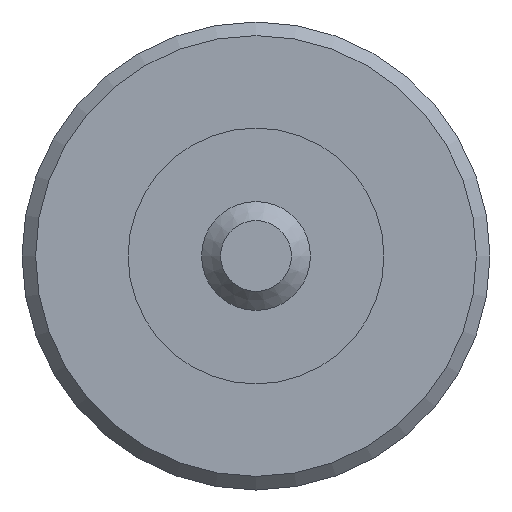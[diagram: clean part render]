
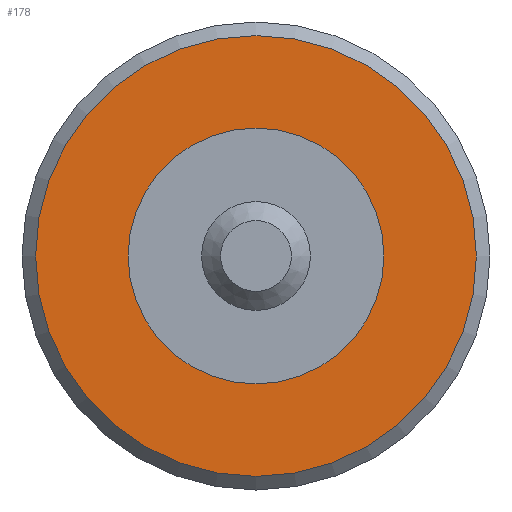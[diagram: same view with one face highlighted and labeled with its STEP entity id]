
A CAD part, left-side view. The second image highlights one B-rep face of the part: STEP entity #178.
In plain terms, the highlighted planar face has unit normal (-1, 0, 0).
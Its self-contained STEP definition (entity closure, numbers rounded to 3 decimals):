
#16=PLANE($,#205);
#31=FACE_BOUND($,#66,.T.);
#32=FACE_BOUND($,#67,.T.);
#66=EDGE_LOOP($,(#136));
#67=EDGE_LOOP($,(#137));
#85=CIRCLE($,#201,1.194);
#87=CIRCLE($,#206,2.057);
#99=VERTEX_POINT($,#298);
#101=VERTEX_POINT($,#305);
#113=EDGE_CURVE($,#99,#99,#85,.T.);
#115=EDGE_CURVE($,#101,#101,#87,.T.);
#136=ORIENTED_EDGE($,*,*,#113,.T.);
#137=ORIENTED_EDGE($,*,*,#115,.F.);
#178=ADVANCED_FACE($,(#31,#32),#16,.T.);
#201=AXIS2_PLACEMENT_3D($,#299,#246,#247);
#205=AXIS2_PLACEMENT_3D($,#304,#254,#255);
#206=AXIS2_PLACEMENT_3D($,#306,#256,#257);
#246=DIRECTION('center_axis',(1.,0.,0.));
#247=DIRECTION('ref_axis',(0.,1.,0.));
#254=DIRECTION('center_axis',(-1.,0.,0.));
#255=DIRECTION('ref_axis',(0.,0.,1.));
#256=DIRECTION('center_axis',(1.,0.,0.));
#257=DIRECTION('ref_axis',(0.,-1.,0.));
#298=CARTESIAN_POINT('',(-10.413,2.017,0.));
#299=CARTESIAN_POINT('Origin',(-10.413,0.824,0.));
#304=CARTESIAN_POINT('Origin',(-10.413,1.916,0.));
#305=CARTESIAN_POINT('',(-10.413,2.881,0.));
#306=CARTESIAN_POINT('Origin',(-10.413,0.824,0.));
